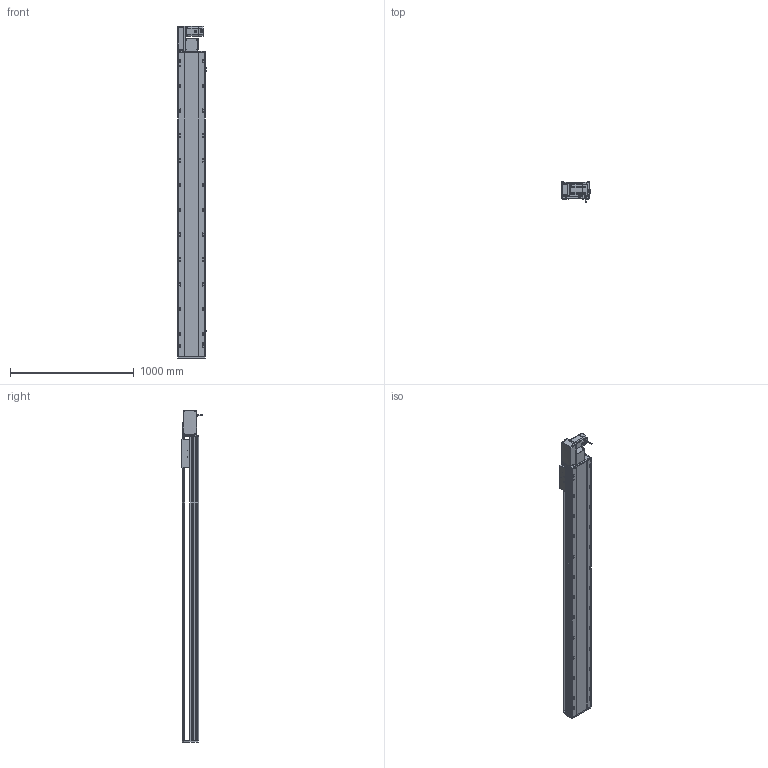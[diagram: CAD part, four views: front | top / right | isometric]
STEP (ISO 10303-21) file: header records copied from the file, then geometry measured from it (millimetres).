
FILE_DESCRIPTION (( 'STEP AP214' ), '1' );
FILE_NAME ('RTB22S-XX-2100-L-M75-C4.STEP', '2025-12-12T03:25:24', ( '' ), ( '' ), 'SwSTEP 2.0', 'SolidWorks 2018', '' );
FILE_SCHEMA (( 'AUTOMOTIVE_DESIGN' ));
Length unit declared in the file: millimetre
Products named in the file (14): RTB22S-GY-007奻裔^RTB22S-XX-XX-L-M75-C4; RTB22S-GY-018P^RTB22S-L-々湍釱蚾饜_RTB22S-XX-XX-L-M75-C4; RTB22S-GY-017P^RTB22S-L-々湍釱蚾饜_RTB22S-XX-XX-L-M75-C4; 750W萇儂^RTB22S-XX-XX-L-M75-C4; RTH22-GY-013外置感应片^RTB22S-XX-XX-L-M75-C4; RTB22S-GY-005P^RTB22S-L-々湍釱蚾饜_RTB22S-XX-XX-L-M75-C4; RTB22S-L-004賑釱^RTB22S-XX-XX-L-M75-C4; RTB22S-XX-2100-L-M75-C4; RTB22S-GY-014--々湍釱^RTB22S-L-々湍釱蚾饜_RTB22S-XX-XX-L-M75-C4; OMRON EE-SX672 传感器^RTB22S-XX-XX-L-M75-C4; RTB22S-GY-008-M75--萇儂啣^RTB22S-L-々湍釱蚾饜_RTB22S-XX-XX-L-M75-C4; RTB22S-L-々湍釱蚾饜^RTB22S-XX-XX-L-M75-C4; RTB22S-GY-001耜裔^RTB22S-XX-XX-L-M75-C4; RTB22S-L-011菁釱^RTB22S-XX-XX-L-M75-C4
Assembly tree (16 placements, depth 3):
  RTB22S-XX-2100-L-M75-C4
    RTB22S-L-011菁釱^RTB22S-XX-XX-L-M75-C4
    750W萇儂^RTB22S-XX-XX-L-M75-C4
    RTB22S-L-004賑釱^RTB22S-XX-XX-L-M75-C4
    OMRON EE-SX672 传感器^RTB22S-XX-XX-L-M75-C4  x3
    RTH22-GY-013外置感应片^RTB22S-XX-XX-L-M75-C4
    RTB22S-GY-007奻裔^RTB22S-XX-XX-L-M75-C4
    RTB22S-GY-001耜裔^RTB22S-XX-XX-L-M75-C4
    RTB22S-L-々湍釱蚾饜^RTB22S-XX-XX-L-M75-C4
      RTB22S-GY-014--々湍釱^RTB22S-L-々湍釱蚾饜_RTB22S-XX-XX-L-M75-C4
      RTB22S-GY-017P^RTB22S-L-々湍釱蚾饜_RTB22S-XX-XX-L-M75-C4  x2
      RTB22S-GY-005P^RTB22S-L-々湍釱蚾饜_RTB22S-XX-XX-L-M75-C4
      RTB22S-GY-008-M75--萇儂啣^RTB22S-L-々湍釱蚾饜_RTB22S-XX-XX-L-M75-C4
      RTB22S-GY-018P^RTB22S-L-々湍釱蚾饜_RTB22S-XX-XX-L-M75-C4
Bounding box: 238.5 x 162.7 x 2679 mm (x, y, z)
Volume: 34102740.2 mm3; surface area: 3498263.2 mm2
Topology: 15 solids, 15 shells, 2073 faces, 5636 edges, 3602 vertices
Faces by surface type: plane 925, cylinder 682, bspline 296, cone 158, sphere 8, torus 4
Entity records: 56058 total; most frequent: CARTESIAN_POINT 15912, ORIENTED_EDGE 8020, DIRECTION 7804, EDGE_CURVE 4010, AXIS2_PLACEMENT_3D 2786, VERTEX_POINT 2606, LINE 2232, VECTOR 2232
